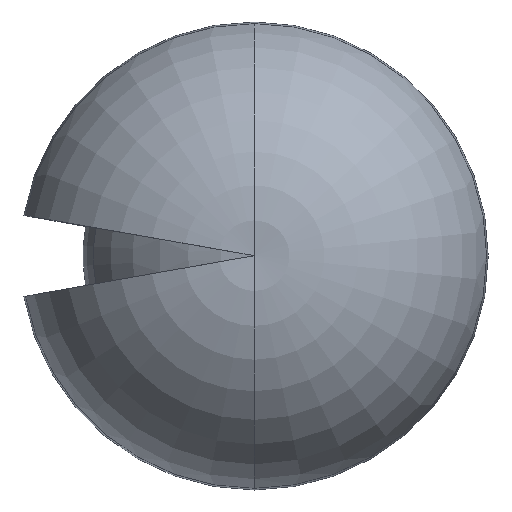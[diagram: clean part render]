
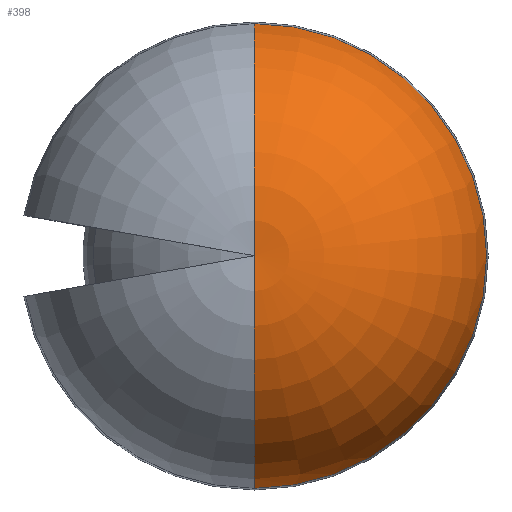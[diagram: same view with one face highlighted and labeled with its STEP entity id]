
A CAD part, top view. The second image highlights one B-rep face of the part: STEP entity #398.
In plain terms, the highlighted toroidal (fillet/blend) face has major radius 340 mm and minor radius 2566.89 mm.
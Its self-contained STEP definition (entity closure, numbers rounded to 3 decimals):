
#31 = EDGE_CURVE ( 'NONE', #437, #272, #401, .T. ) ;
#40 = DIRECTION ( 'NONE',  ( 1., 0., 0. ) ) ;
#52 = ORIENTED_EDGE ( 'NONE', *, *, #309, .T. ) ;
#64 = DIRECTION ( 'NONE',  ( 0., 0., 1. ) ) ;
#84 = CARTESIAN_POINT ( 'NONE',  ( 0., 2867.895, 1225.736 ) ) ;
#106 = CARTESIAN_POINT ( 'NONE',  ( 0., 0., 1225.736 ) ) ;
#121 = CARTESIAN_POINT ( 'NONE',  ( 0., 0., 780. ) ) ;
#145 = DIRECTION ( 'NONE',  ( -1., 0., 0. ) ) ;
#165 = AXIS2_PLACEMENT_3D ( 'NONE', #106, #426, #248 ) ;
#194 = VERTEX_POINT ( 'NONE', #390 ) ;
#219 = ORIENTED_EDGE ( 'NONE', *, *, #270, .F. ) ;
#228 = DIRECTION ( 'NONE',  ( 0., 0., -1. ) ) ;
#248 = DIRECTION ( 'NONE',  ( 0., 1., 0. ) ) ;
#270 = EDGE_CURVE ( 'NONE', #194, #437, #454, .T. ) ;
#272 = VERTEX_POINT ( 'NONE', #310 ) ;
#295 = AXIS2_PLACEMENT_3D ( 'NONE', #508, #145, #64 ) ;
#309 = EDGE_CURVE ( 'NONE', #194, #272, #507, .T. ) ;
#310 = CARTESIAN_POINT ( 'NONE',  ( 0., -2867.895, 1225.736 ) ) ;
#314 = DIRECTION ( 'NONE',  ( 0., 1., 0. ) ) ;
#369 = ORIENTED_EDGE ( 'NONE', *, *, #31, .F. ) ;
#372 = AXIS2_PLACEMENT_3D ( 'NONE', #475, #40, #435 ) ;
#388 = TOROIDAL_SURFACE ( 'NONE', #487, 340., 2566.892 ) ;
#390 = CARTESIAN_POINT ( 'NONE',  ( 0., 0., 3324.274 ) ) ;
#398 = ADVANCED_FACE ( 'NONE', ( #431 ), #388, .T. ) ;
#401 = CIRCLE ( 'NONE', #165, 2867.895 ) ;
#426 = DIRECTION ( 'NONE',  ( 0., 0., -1. ) ) ;
#429 = EDGE_LOOP ( 'NONE', ( #219, #52, #369 ) ) ;
#431 = FACE_OUTER_BOUND ( 'NONE', #429, .T. ) ;
#435 = DIRECTION ( 'NONE',  ( 0., 1., 0. ) ) ;
#437 = VERTEX_POINT ( 'NONE', #84 ) ;
#454 = CIRCLE ( 'NONE', #295, 2566.892 ) ;
#475 = CARTESIAN_POINT ( 'NONE',  ( 0., -340., 780. ) ) ;
#487 = AXIS2_PLACEMENT_3D ( 'NONE', #121, #228, #314 ) ;
#507 = CIRCLE ( 'NONE', #372, 2566.892 ) ;
#508 = CARTESIAN_POINT ( 'NONE',  ( 0., 340., 780. ) ) ;
